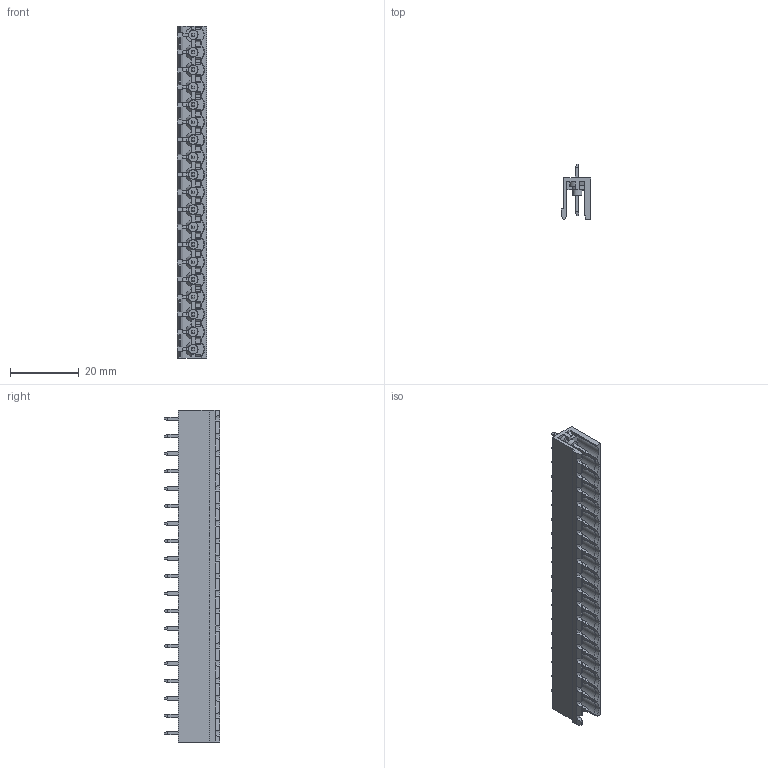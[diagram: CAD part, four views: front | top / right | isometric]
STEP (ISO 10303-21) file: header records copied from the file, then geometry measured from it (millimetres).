
FILE_DESCRIPTION (( 'STEP AP203' ), '1' );
FILE_NAME ('BR8MC1-19.STEP', '2020-03-18T03:06:53', ( '' ), ( '' ), 'SwSTEP 2.0', 'SolidWorks 2019', '' );
FILE_SCHEMA (( 'CONFIG_CONTROL_DESIGN' ));
Length unit declared in the file: millimetre
Products named in the file (1): BR8MC1-19
Bounding box: 8.5 x 16.03 x 96.52 mm (x, y, z)
Volume: 3655 mm3; surface area: 8082.5 mm2
Topology: 1 solids, 1 shells, 1596 faces, 4158 edges, 2564 vertices
Faces by surface type: plane 1370, cylinder 96, cone 92, sphere 38
Entity records: 47408 total; most frequent: CARTESIAN_POINT 9063, ORIENTED_EDGE 8164, DIRECTION 7473, EDGE_CURVE 4082, LINE 3481, VECTOR 3481, VERTEX_POINT 2526, AXIS2_PLACEMENT_3D 1996
